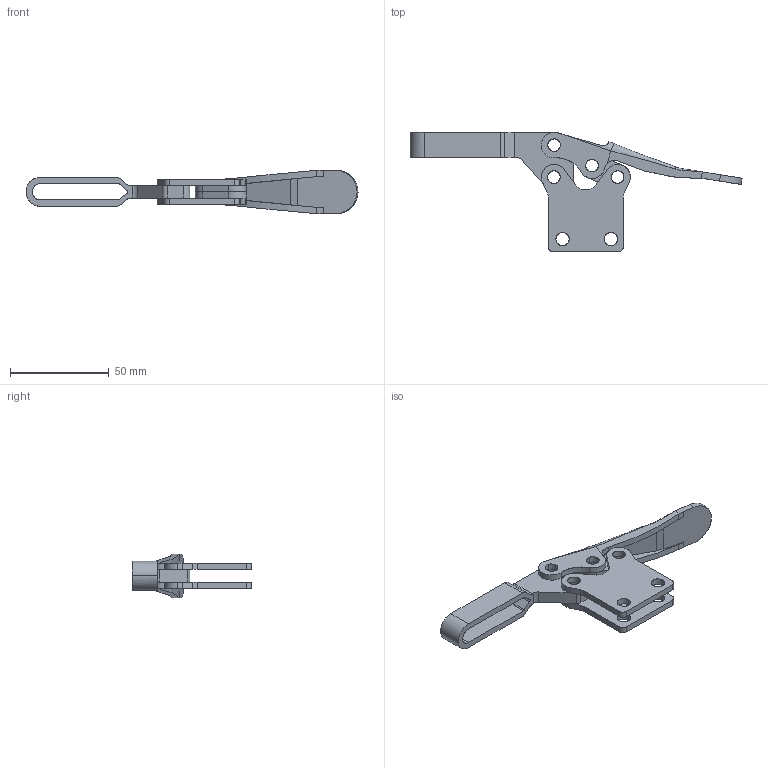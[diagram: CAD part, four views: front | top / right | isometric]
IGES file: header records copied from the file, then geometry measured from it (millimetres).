
Start section: Comment
Global section: file name: 225di.igs; native system:  By Spatial Corp.; preprocessor: XPlus PS/IGES 3.0; author: Author; organization: Title; date: 20050217.081745; units: inch
Bounding box: 168.31 x 60.53 x 22 mm (x, y, z)
Surface area: 20543.3 mm2 (no closed solid volume)
Topology: 0 solids, 0 shells, 164 faces, 936 edges, 934 vertices
Faces by surface type: revolution 98, extrusion 58, bspline 8
